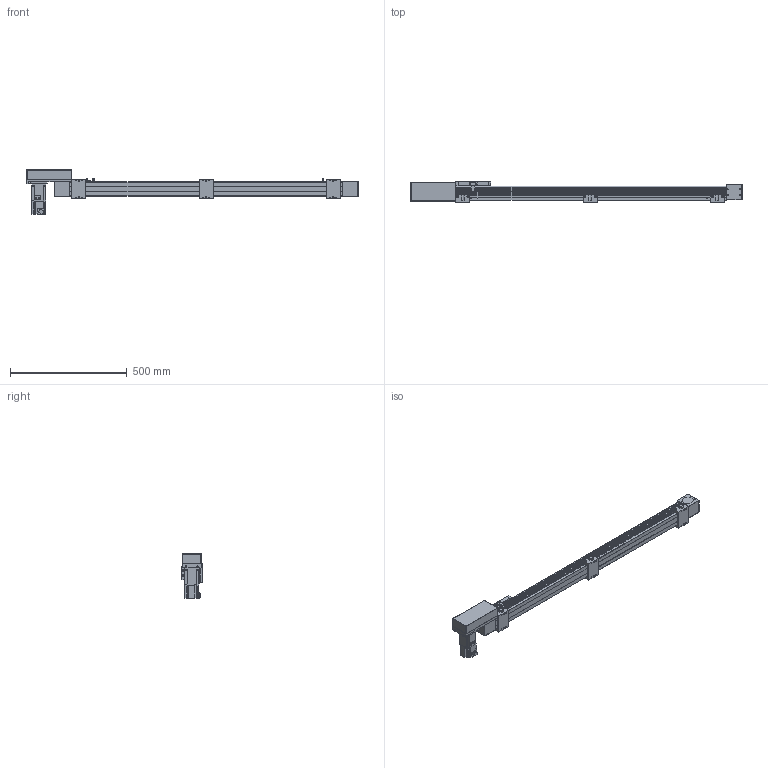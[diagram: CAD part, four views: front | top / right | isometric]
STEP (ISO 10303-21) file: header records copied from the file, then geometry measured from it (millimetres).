
FILE_DESCRIPTION(/* description */ ('STEP AP214'),/* implementation_level */ '2;1');
FILE_NAME(/* name */ 'SK60-P13-S1000-R-T40-C1-N(0)',/* time_stamp */ '2023-04-06T04:27:13+02:00',/* author */ ('License CC BY-ND 4.0'),/* organization */ ('CADENAS'),/* preprocessor_version */ 'ST-DEVELOPER v19.3',/* originating_system */ 'PARTsolutions',/* authorisation */ ' ');
FILE_SCHEMA (('AUTOMOTIVE_DESIGN {1 0 10303 214 3 1 1}'));
Length unit declared in the file: millimetre
Products named in the file (10): SK60-P13-S1000-R-T40-C1-N(0); PSC140-sensor; SK60-S450_seat; SK60-S450-BL-C1_slider; SK60_body3; SK60_body6; SK60-BL_body2; T40-p1; SK60-R_fb; SK60-S1000-R-C1_body
Assembly tree (17 placements, depth 2):
  SK60-P13-S1000-R-T40-C1-N(0)
    PSC140-sensor  x3
    SK60-S450_seat  x3
    SK60-S450-BL-C1_slider
    SK60_body3  x3
    SK60_body6  x2
    SK60-BL_body2  x2
    T40-p1
    SK60-R_fb
    SK60-S1000-R-C1_body
Bounding box: 1420.5 x 90 x 189.7 mm (x, y, z)
Volume: 5668078.8 mm3; surface area: 718309.1 mm2
Topology: 17 solids, 17 shells, 854 faces, 2146 edges, 1413 vertices
Faces by surface type: plane 548, cylinder 278, cone 26, torus 2
Full cylindrical faces by diameter (mm): 2.8 x3, 3.3 x4, 4 x2, 4.5 x30, 4.6 x3, 4.917 x20, 5 x6, 5.478 x4, 5.5 x23, 6.5 x6, 7 x2, 8 x4, 8.5 x4, 9.988 x4, 10 x12, 14 x1, 47 x3, 50 x2
Entity records: 18663 total; most frequent: DIRECTION 3186, CARTESIAN_POINT 3151, ORIENTED_EDGE 2940, EDGE_CURVE 1470, AXIS2_PLACEMENT_3D 1069, LINE 1048, VECTOR 1048, VERTEX_POINT 1034
